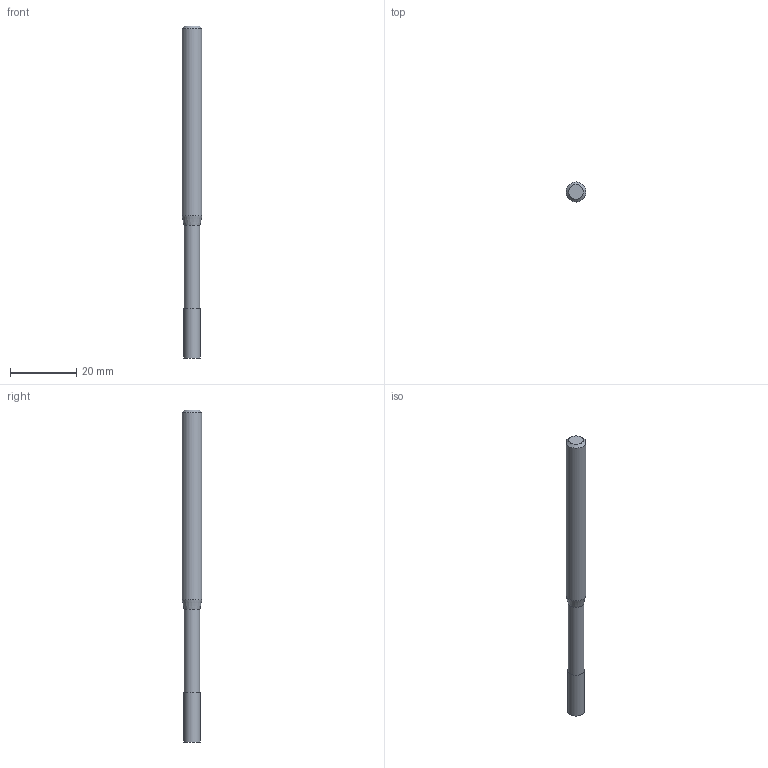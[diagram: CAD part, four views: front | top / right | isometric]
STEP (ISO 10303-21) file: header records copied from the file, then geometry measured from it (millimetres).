
FILE_DESCRIPTION((''),'2;1');
FILE_NAME('C:\Users\nsx150\Desktop\RSE230_20210427\01-00644-05040 RSE230 D5X15X40.step','2021-05-07T14:54:23',(''),(''),'STEP Write','Mastercam 2021 ... CNC Software, Inc.','');
FILE_SCHEMA(('AUTOMOTIVE_DESIGN'));
Length unit declared in the file: millimetre
Products named in the file (1): None
Bounding box: 6 x 6 x 100 mm (x, y, z)
Volume: 2423 mm3; surface area: 1815.3 mm2
Topology: 2 solids, 2 shells, 9 faces, 12 edges, 7 vertices
Faces by surface type: plane 4, cylinder 3, cone 2
Full cylindrical faces by diameter (mm): 4.8 x1, 5 x1, 6 x1
Entity records: 211 total; most frequent: DIRECTION 36, CARTESIAN_POINT 25, AXIS2_PLACEMENT_3D 18, ORIENTED_EDGE 14, EDGE_LOOP 14, STYLED_ITEM 12, ADVANCED_FACE 9, FACE_BOUND 8
